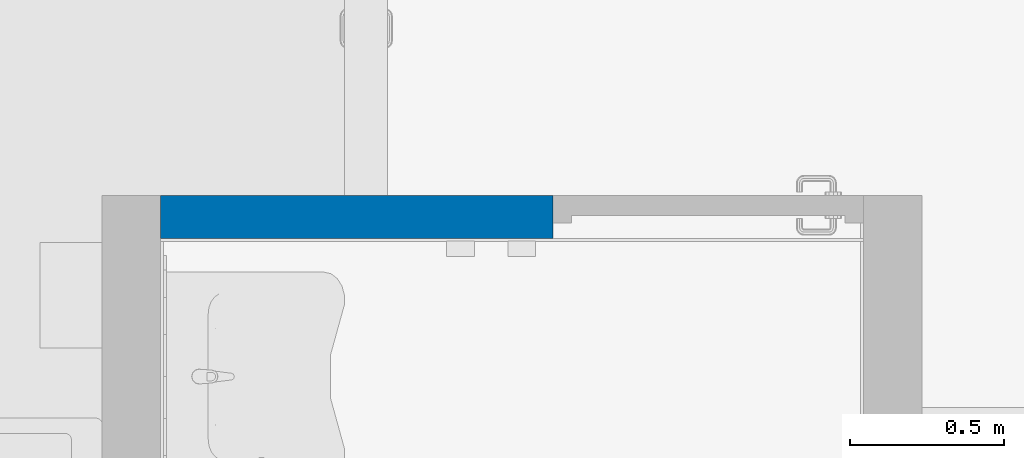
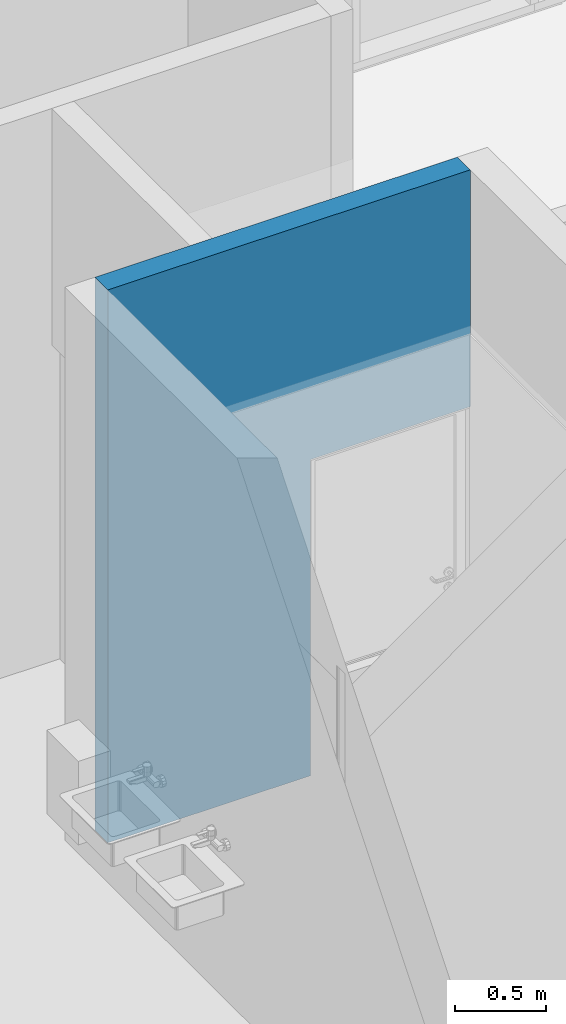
# One storey, part 8 of 301: 1 wall, 1 opening.
"""IFC2X3 building model written with IfcOpenShell, lengths in millimetres."""

from ifc_helpers import new_model, entity, si_unit, converted_unit, derived_unit, money_unit, direction, frame, origin_with_axes, place, context, subcontext, project, spatial, faceted_brep, material, type_object, element, save


model = new_model("IFC2X3")

# Units and contexts
model_context = context("Model", 3, precision=0.01, world=origin_with_axes(), true_north=direction((0.0, 1.0)))
body_context = subcontext(model_context, "Body", "Model", "MODEL_VIEW")
ifc_project = project(units=[si_unit("LENGTHUNIT", "METRE", prefix="MILLI"), si_unit("AREAUNIT", "SQUARE_METRE"), si_unit("VOLUMEUNIT", "CUBIC_METRE"), converted_unit("PLANEANGLEUNIT", "DEGREE", entity("IfcPlaneAngleMeasure", 0.0174532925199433), si_unit("PLANEANGLEUNIT", "RADIAN"), dimensions=[0, 0, 0, 0, 0, 0, 0]), money_unit("EUR"), converted_unit("TIMEUNIT", "Year", entity("IfcTimeMeasure", 31557600.0), si_unit("TIMEUNIT", "SECOND"), dimensions=[0, 0, 1, 0, 0, 0, 0]), si_unit("MASSUNIT", "GRAM", prefix="KILO"), si_unit("THERMODYNAMICTEMPERATUREUNIT", "DEGREE_CELSIUS"), si_unit("LUMINOUSINTENSITYUNIT", "LUMEN"), si_unit("ENERGYUNIT", "JOULE", prefix="MEGA"), derived_unit("THERMALCONDUCTANCEUNIT", [(si_unit("POWERUNIT", "WATT"), 1), (si_unit("LENGTHUNIT", "METRE"), -1), (si_unit("THERMODYNAMICTEMPERATUREUNIT", "KELVIN"), -1)]), derived_unit("SPECIFICHEATCAPACITYUNIT", [(si_unit("ENERGYUNIT", "JOULE"), 1), (si_unit("MASSUNIT", "GRAM", prefix="KILO"), -1), (si_unit("THERMODYNAMICTEMPERATUREUNIT", "KELVIN"), -1)]), derived_unit("MASSDENSITYUNIT", [(si_unit("MASSUNIT", "GRAM", prefix="KILO"), 1), (si_unit("VOLUMEUNIT", "CUBIC_METRE"), -1)])], contexts=[model_context])

# Site, building, storey
site_placement = place(None, frame((0.0, 0.0, 8650.0), z_axis=(0.0, 0.0, 1.0), x_axis=(1.0, 0.0, 0.0)))
site = spatial("IfcSite", under=ifc_project, at=site_placement, Name="43301:001:0844", CompositionType="ELEMENT")
building_placement = place(site_placement, origin_with_axes())
building = spatial("IfcBuilding", under=site, at=building_placement, Name="Kuressaare Ametikooli tuulikute mehaanikute õppekorpus", CompositionType="ELEMENT")
storey_placement = place(building_placement, origin_with_axes())
storey = spatial("IfcBuildingStorey", under=building, at=storey_placement, Name="1.korrus", CompositionType="ELEMENT", Elevation=0.0)

# Wall, opening
ifc_material = material(Name="Betoonõõnesplokk")
wall_type = type_object("IfcWallType", Name="SS-1.2 140", PredefinedType="NOTDEFINED")
wall_placement = place(storey_placement, frame((100977.9522847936, 20624.79367841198, 0.0), z_axis=(0.0, 0.0, 1.0), x_axis=(1.0, 0.0, 0.0)))
wall = element("IfcWall", 1, at=wall_placement, inside=storey, type_object=wall_type, material=ifc_material, Name="Sisesein", context=body_context, shape_type="Brep", body=[
    faceted_brep([(2477.559653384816, 0.0, 2110.0), (2477.559653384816, 139.9983699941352, 2110.0), (2477.559672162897, 139.9979605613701, 2640.000017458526), (2477.559672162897, 139.9979605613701, 2690.000017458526), (2477.559672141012, 140.0000000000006, 3690.0), (2477.55965338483, 0.0, 3690.0), (1467.559653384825, 140.0000000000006, 2110.0), (1467.559653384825, 0.0, 2110.0), (1467.559653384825, 140.0000000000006, 0.0), (189.9999999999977, 140.0000000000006, 0.0), (189.9999999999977, 140.0000000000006, 3690.0), (929.3637134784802, 140.0000000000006, 2690.000017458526), (929.3637134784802, 140.0000000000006, 2640.000017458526), (929.3637136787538, 139.9813424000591, 2640.000017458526), (929.3637136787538, 139.9813424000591, 2690.000017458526), (189.9999999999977, 0.0, 3690.0), (189.9999999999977, 0.0, 0.0), (1467.559653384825, 0.0, 0.0)], [[[0, 1, 2, 3, 4, 5]], [[6, 1, 0, 7]], [[6, 8, 9, 10, 4, 3, 11, 12, 2, 1]], [[3, 2, 13, 14]], [[5, 4, 10, 15]], [[7, 0, 5, 15, 16, 17]], [[8, 6, 7, 17]], [[8, 17, 16, 9]], [[15, 10, 9, 16]], [[14, 11, 3]], [[12, 11, 14, 13]], [[13, 2, 12]]]),
])
opening_placement = place(wall_placement, frame((1972.55965338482, 0.0, 0.0), z_axis=(0.0, 0.0, 1.0), x_axis=(1.0, 0.0, 0.0)))
element("IfcOpeningElement", 2, at=opening_placement, cuts=wall, Name="PU10", context=body_context, shape_type="Brep", body=[
    faceted_brep([(-504.9999999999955, -1.000000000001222, 2110.0), (-504.9999999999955, -1.000000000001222, 0.0), (504.9999999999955, -1.000000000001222, 0.0), (504.9999999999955, -1.000000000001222, 2110.0), (-504.9999999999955, 141.0000000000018, 2110.0), (-504.9999999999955, 141.0000000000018, 0.0), (504.9999999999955, 141.0000000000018, 0.0), (504.9999999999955, 141.0000000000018, 2110.0)], [[[0, 1, 2, 3]], [[4, 5, 1, 0]], [[5, 6, 2, 1]], [[6, 7, 3, 2]], [[7, 4, 0, 3]], [[6, 5, 4, 7]]]),
])

save(model, "model.ifc")
